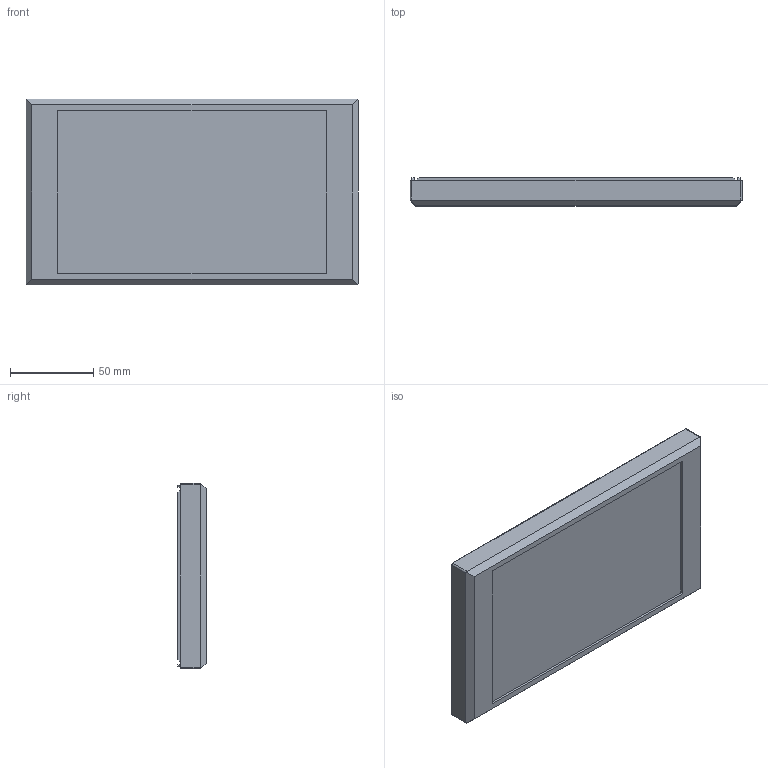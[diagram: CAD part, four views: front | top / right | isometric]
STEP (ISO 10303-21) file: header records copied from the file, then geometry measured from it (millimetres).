
FILE_DESCRIPTION (( 'STEP AP214' ), '1' );
FILE_NAME ('Tapa PP37.STEP', '2016-10-09T09:44:13', ( 'aaa' ), ( '' ), 'SwSTEP 2.0', 'SolidWorks 2013', '' );
FILE_SCHEMA (( 'AUTOMOTIVE_DESIGN' ));
Length unit declared in the file: millimetre
Products named in the file (1): Tapa PP37
Bounding box: 200 x 17 x 112 mm (x, y, z)
Volume: 80813.6 mm3; surface area: 65056.8 mm2
Topology: 1 solids, 1 shells, 102 faces, 224 edges, 148 vertices
Faces by surface type: plane 62, cylinder 40
Entity records: 2846 total; most frequent: CARTESIAN_POINT 499, DIRECTION 498, ORIENTED_EDGE 448, EDGE_CURVE 224, AXIS2_PLACEMENT_3D 179, VERTEX_POINT 148, LINE 140, VECTOR 140
